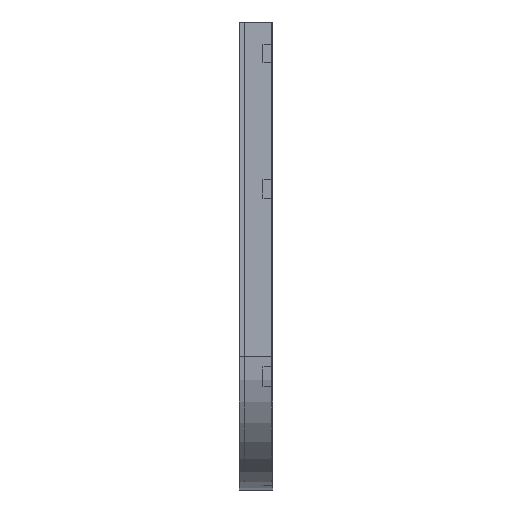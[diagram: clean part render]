
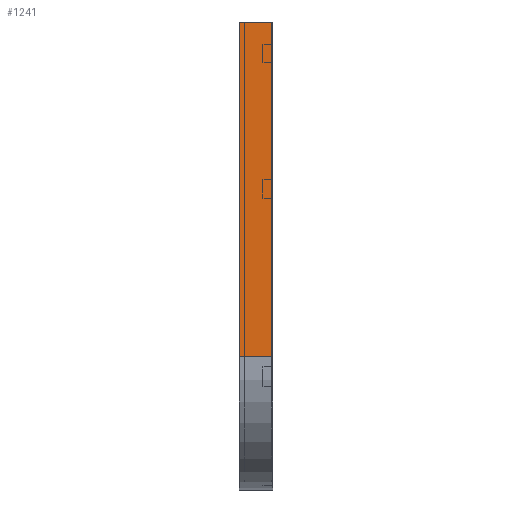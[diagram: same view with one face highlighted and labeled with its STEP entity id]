
A CAD part, left-side view. The second image highlights one B-rep face of the part: STEP entity #1241.
In plain terms, the highlighted planar face has unit normal (-1, 0, 0).
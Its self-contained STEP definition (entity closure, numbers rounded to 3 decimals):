
#183 = EDGE_CURVE ( 'NONE', #1955, #1464, #1663, .T. ) ;
#184 = LINE ( 'NONE', #943, #1542 ) ;
#234 = VECTOR ( 'NONE', #1535, 1000. ) ;
#397 = DIRECTION ( 'NONE',  ( 1., 0., 0. ) ) ;
#501 = DIRECTION ( 'NONE',  ( 0., 0., -1. ) ) ;
#506 = CARTESIAN_POINT ( 'NONE',  ( 0., 0., 0. ) ) ;
#514 = CARTESIAN_POINT ( 'NONE',  ( 0., 75., 0. ) ) ;
#700 = DIRECTION ( 'NONE',  ( 0., 0., -1. ) ) ;
#705 = VERTEX_POINT ( 'NONE', #514 ) ;
#731 = CARTESIAN_POINT ( 'NONE',  ( 0., 0., 0. ) ) ;
#820 = VECTOR ( 'NONE', #975, 1000. ) ;
#943 = CARTESIAN_POINT ( 'NONE',  ( 0., 75., 0. ) ) ;
#975 = DIRECTION ( 'NONE',  ( 0., -1., 0. ) ) ;
#1065 = EDGE_CURVE ( 'NONE', #705, #1756, #184, .T. ) ;
#1091 = ORIENTED_EDGE ( 'NONE', *, *, #1094, .T. ) ;
#1094 = EDGE_CURVE ( 'NONE', #1756, #1464, #2064, .T. ) ;
#1095 = EDGE_LOOP ( 'NONE', ( #1559, #2024, #1324, #1091 ) ) ;
#1194 = CARTESIAN_POINT ( 'NONE',  ( 0., 0., 0. ) ) ;
#1220 = LINE ( 'NONE', #1235, #234 ) ;
#1235 = CARTESIAN_POINT ( 'NONE',  ( 0., 0., 0. ) ) ;
#1241 = ADVANCED_FACE ( 'NONE', ( #1978 ), #1318, .F. ) ;
#1318 = PLANE ( 'NONE',  #1639 ) ;
#1324 = ORIENTED_EDGE ( 'NONE', *, *, #1065, .T. ) ;
#1331 = CARTESIAN_POINT ( 'NONE',  ( 0., 75., -750. ) ) ;
#1365 = CARTESIAN_POINT ( 'NONE',  ( 0., 0., -750. ) ) ;
#1464 = VERTEX_POINT ( 'NONE', #1365 ) ;
#1535 = DIRECTION ( 'NONE',  ( 0., -1., 0. ) ) ;
#1542 = VECTOR ( 'NONE', #501, 1000. ) ;
#1559 = ORIENTED_EDGE ( 'NONE', *, *, #183, .F. ) ;
#1639 = AXIS2_PLACEMENT_3D ( 'NONE', #731, #397, #700 ) ;
#1663 = LINE ( 'NONE', #1194, #1915 ) ;
#1755 = CARTESIAN_POINT ( 'NONE',  ( 0., 0., -750. ) ) ;
#1756 = VERTEX_POINT ( 'NONE', #1331 ) ;
#1829 = DIRECTION ( 'NONE',  ( 0., 0., -1. ) ) ;
#1845 = EDGE_CURVE ( 'NONE', #705, #1955, #1220, .T. ) ;
#1915 = VECTOR ( 'NONE', #1829, 1000. ) ;
#1955 = VERTEX_POINT ( 'NONE', #506 ) ;
#1978 = FACE_OUTER_BOUND ( 'NONE', #1095, .T. ) ;
#2024 = ORIENTED_EDGE ( 'NONE', *, *, #1845, .F. ) ;
#2064 = LINE ( 'NONE', #1755, #820 ) ;
